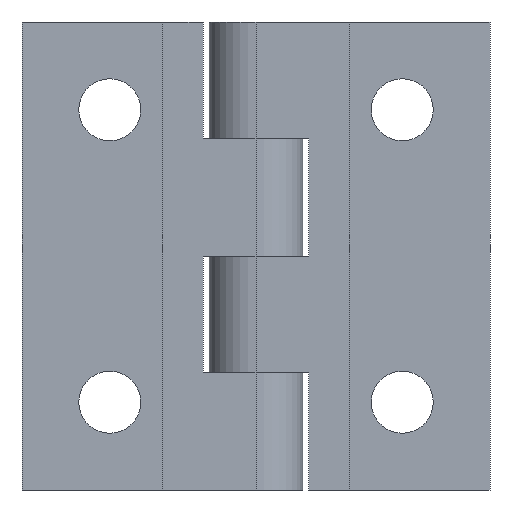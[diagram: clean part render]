
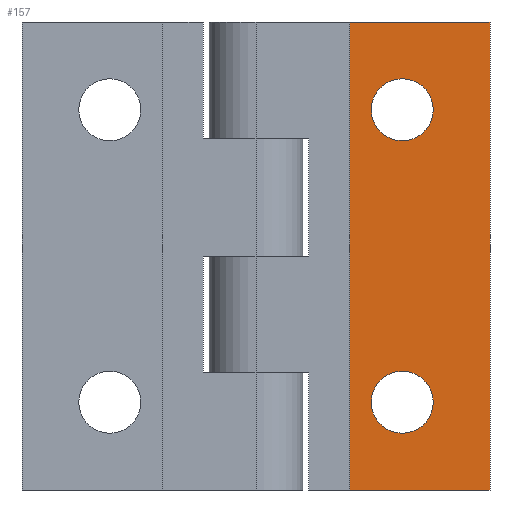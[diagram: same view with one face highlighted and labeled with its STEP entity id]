
A CAD part, front view. The second image highlights one B-rep face of the part: STEP entity #157.
In plain terms, the highlighted planar face has unit normal (0, -1, 0).
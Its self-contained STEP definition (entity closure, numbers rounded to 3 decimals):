
#157=ADVANCED_FACE('',(#270,#271,#272),#273,.T.);
#270=FACE_BOUND('',#431,.T.);
#271=FACE_BOUND('',#432,.T.);
#272=FACE_OUTER_BOUND('',#433,.T.);
#273=PLANE('',#434);
#431=EDGE_LOOP('',(#806,#807));
#432=EDGE_LOOP('',(#808,#809));
#433=EDGE_LOOP('',(#810,#811,#812,#813));
#434=AXIS2_PLACEMENT_3D('',#814,#815,#816);
#806=ORIENTED_EDGE('',*,*,#1205,.T.);
#807=ORIENTED_EDGE('',*,*,#1183,.T.);
#808=ORIENTED_EDGE('',*,*,#1215,.T.);
#809=ORIENTED_EDGE('',*,*,#1175,.T.);
#810=ORIENTED_EDGE('',*,*,#1276,.T.);
#811=ORIENTED_EDGE('',*,*,#1277,.F.);
#812=ORIENTED_EDGE('',*,*,#1278,.T.);
#813=ORIENTED_EDGE('',*,*,#1274,.T.);
#814=CARTESIAN_POINT('',(20.0,0.0,0.0));
#815=DIRECTION('',(0.0,-1.0,0.0));
#816=DIRECTION('',(1.0,0.0,0.0));
#1175=EDGE_CURVE('',#1391,#1388,#1392,.T.);
#1183=EDGE_CURVE('',#1406,#1403,#1407,.T.);
#1205=EDGE_CURVE('',#1403,#1406,#1442,.T.);
#1215=EDGE_CURVE('',#1388,#1391,#1457,.T.);
#1274=EDGE_CURVE('',#1555,#1553,#1556,.T.);
#1276=EDGE_CURVE('',#1553,#1558,#1559,.T.);
#1277=EDGE_CURVE('',#1560,#1558,#1561,.T.);
#1278=EDGE_CURVE('',#1560,#1555,#1562,.T.);
#1388=VERTEX_POINT('',#1742);
#1391=VERTEX_POINT('',#1746);
#1392=CIRCLE('',#1747,2.65);
#1403=VERTEX_POINT('',#1761);
#1406=VERTEX_POINT('',#1765);
#1407=CIRCLE('',#1766,2.65);
#1442=CIRCLE('',#1808,2.65);
#1457=CIRCLE('',#1829,2.65);
#1553=VERTEX_POINT('',#1978);
#1555=VERTEX_POINT('',#1981);
#1556=LINE('',#1982,#1983);
#1558=VERTEX_POINT('',#1986);
#1559=LINE('',#1987,#1988);
#1560=VERTEX_POINT('',#1989);
#1561=LINE('',#1990,#1991);
#1562=LINE('',#1992,#1993);
#1742=CARTESIAN_POINT('',(9.85,0.0,7.5));
#1746=CARTESIAN_POINT('',(15.15,0.,7.5));
#1747=AXIS2_PLACEMENT_3D('',#2291,#2292,#2293);
#1761=CARTESIAN_POINT('',(9.85,0.0,32.5));
#1765=CARTESIAN_POINT('',(15.15,0.,32.5));
#1766=AXIS2_PLACEMENT_3D('',#2307,#2308,#2309);
#1808=AXIS2_PLACEMENT_3D('',#2359,#2360,#2361);
#1829=AXIS2_PLACEMENT_3D('',#2377,#2378,#2379);
#1978=CARTESIAN_POINT('',(20.0,0.0,40.0));
#1981=CARTESIAN_POINT('',(20.0,0.0,0.0));
#1982=CARTESIAN_POINT('',(20.0,0.0,0.0));
#1983=VECTOR('',#2446,1.0);
#1986=CARTESIAN_POINT('',(8.0,0.0,40.0));
#1987=CARTESIAN_POINT('',(8.0,0.0,40.0));
#1988=VECTOR('',#2448,1.0);
#1989=CARTESIAN_POINT('',(8.0,0.0,0.0));
#1990=CARTESIAN_POINT('',(8.0,0.0,0.0));
#1991=VECTOR('',#2449,1.0);
#1992=CARTESIAN_POINT('',(8.0,0.0,0.0));
#1993=VECTOR('',#2450,1.0);
#2291=CARTESIAN_POINT('',(12.5,0.,7.5));
#2292=DIRECTION('',(0.0,1.0,0.0));
#2293=DIRECTION('',(-1.0,0.0,0.));
#2307=CARTESIAN_POINT('',(12.5,0.,32.5));
#2308=DIRECTION('',(0.0,1.0,0.0));
#2309=DIRECTION('',(-1.0,0.0,0.));
#2359=CARTESIAN_POINT('',(12.5,0.,32.5));
#2360=DIRECTION('',(0.0,1.0,0.0));
#2361=DIRECTION('',(-1.0,0.0,0.));
#2377=CARTESIAN_POINT('',(12.5,0.,7.5));
#2378=DIRECTION('',(0.0,1.0,0.0));
#2379=DIRECTION('',(-1.0,0.0,0.));
#2446=DIRECTION('',(0.0,0.0,1.0));
#2448=DIRECTION('',(-1.0,0.0,0.0));
#2449=DIRECTION('',(0.0,0.0,1.0));
#2450=DIRECTION('',(1.0,0.0,0.0));
